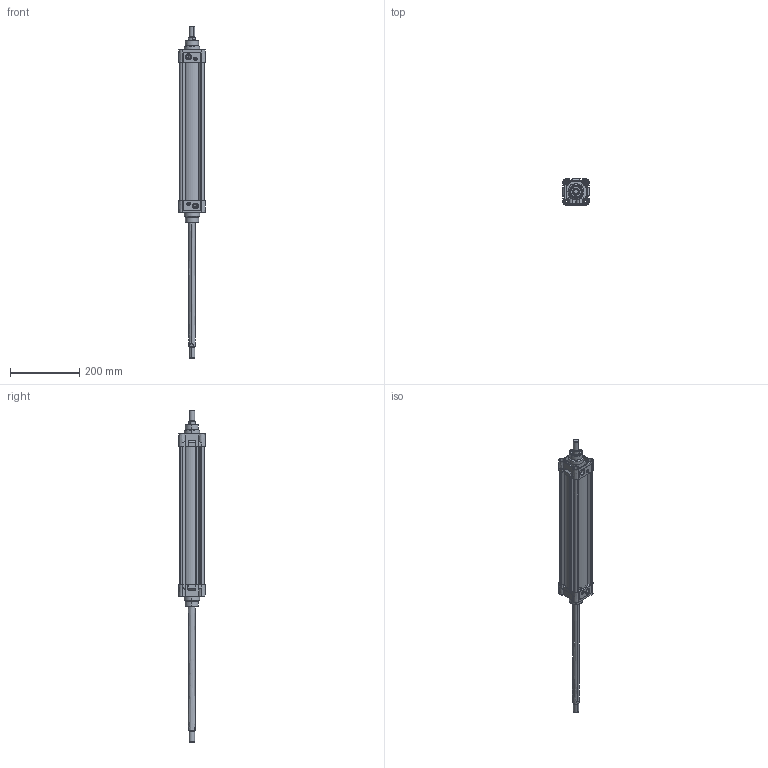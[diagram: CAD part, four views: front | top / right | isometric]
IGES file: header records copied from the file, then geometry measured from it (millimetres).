
Start section: SolidWorks IGES file using analytic representation for surfaces
Global section: file name: D:\ARICA 3D 禽Z軲LER\3D IGES\KDNT 禽FT M軱L輁KDNT63\KDNT63X350CIFTMILLI-CYLINDER.IGS; native system: SolidWorks 2013; preprocessor: SolidWorks 2013; author: user; date: 160324.123205; units: millimetre
Bounding box: 75.8 x 76.06 x 959.3 mm (x, y, z)
Surface area: 450741.8 mm2 (no closed solid volume)
Topology: 0 solids, 0 shells, 894 faces, 15862 edges, 15850 vertices
Faces by surface type: revolution 526, bspline 368
